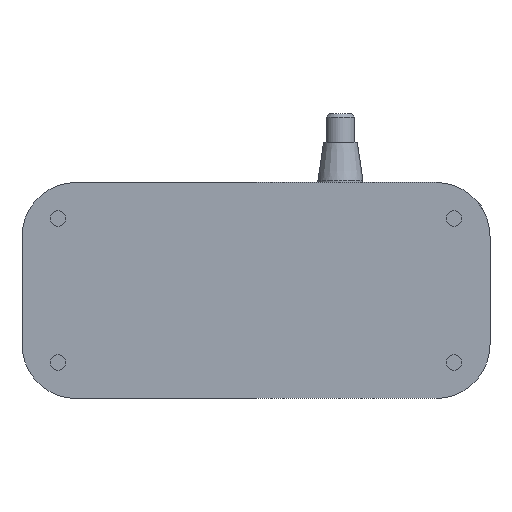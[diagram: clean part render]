
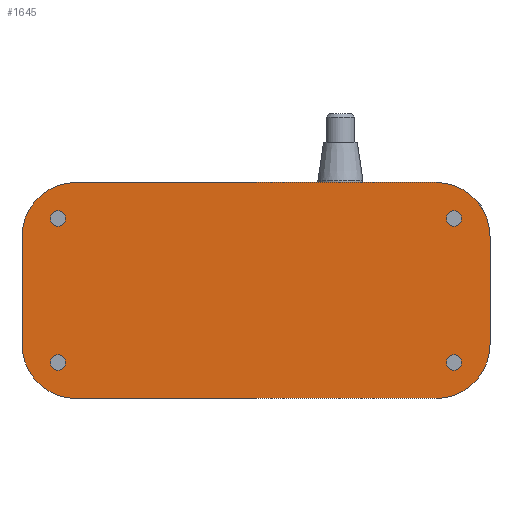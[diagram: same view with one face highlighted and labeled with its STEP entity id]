
A CAD part, front view. The second image highlights one B-rep face of the part: STEP entity #1645.
In plain terms, the highlighted planar face has unit normal (0, -1, 0).
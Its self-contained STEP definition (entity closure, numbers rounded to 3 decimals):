
#9 = DIRECTION ( 'NONE',  ( 0., -1., 0. ) ) ;
#20 = CARTESIAN_POINT ( 'NONE',  ( -108.8, 0., 40. ) ) ;
#76 = CIRCLE ( 'NONE', #299, 4.25 ) ;
#98 = CARTESIAN_POINT ( 'NONE',  ( 131.2, 0., -30. ) ) ;
#104 = CARTESIAN_POINT ( 'NONE',  ( -128.8, 0., 60. ) ) ;
#111 = AXIS2_PLACEMENT_3D ( 'NONE', #1895, #1520, #116 ) ;
#116 = DIRECTION ( 'NONE',  ( 1., 0., 0. ) ) ;
#119 = CARTESIAN_POINT ( 'NONE',  ( -98.8, 0., -30. ) ) ;
#120 = CIRCLE ( 'NONE', #111, 4.25 ) ;
#130 = CARTESIAN_POINT ( 'NONE',  ( -113.05, 0., 40. ) ) ;
#131 = CARTESIAN_POINT ( 'NONE',  ( -98.8, 0., 30. ) ) ;
#140 = VECTOR ( 'NONE', #480, 1000. ) ;
#159 = CARTESIAN_POINT ( 'NONE',  ( 131.2, 0., 60. ) ) ;
#194 = CARTESIAN_POINT ( 'NONE',  ( -128.8, 0., -30. ) ) ;
#199 = CIRCLE ( 'NONE', #269, 4.25 ) ;
#208 = DIRECTION ( 'NONE',  ( 0., 1., 0. ) ) ;
#210 = PLANE ( 'NONE',  #1917 ) ;
#228 = FACE_BOUND ( 'NONE', #456, .T. ) ;
#269 = AXIS2_PLACEMENT_3D ( 'NONE', #2207, #986, #1683 ) ;
#281 = ORIENTED_EDGE ( 'NONE', *, *, #1514, .T. ) ;
#299 = AXIS2_PLACEMENT_3D ( 'NONE', #1313, #1068, #1051 ) ;
#306 = ORIENTED_EDGE ( 'NONE', *, *, #2024, .T. ) ;
#338 = ORIENTED_EDGE ( 'NONE', *, *, #814, .F. ) ;
#342 = VERTEX_POINT ( 'NONE', #1209 ) ;
#348 = VECTOR ( 'NONE', #780, 1000. ) ;
#349 = VERTEX_POINT ( 'NONE', #1112 ) ;
#354 = DIRECTION ( 'NONE',  ( -1., 0., 0. ) ) ;
#356 = EDGE_CURVE ( 'NONE', #1843, #527, #2266, .T. ) ;
#366 = CARTESIAN_POINT ( 'NONE',  ( 101.2, 0., -60. ) ) ;
#394 = AXIS2_PLACEMENT_3D ( 'NONE', #1862, #793, #582 ) ;
#395 = VECTOR ( 'NONE', #1446, 1000. ) ;
#436 = EDGE_CURVE ( 'NONE', #745, #349, #1229, .T. ) ;
#456 = EDGE_LOOP ( 'NONE', ( #2152, #2035 ) ) ;
#464 = VERTEX_POINT ( 'NONE', #1970 ) ;
#480 = DIRECTION ( 'NONE',  ( 1., 0., 0. ) ) ;
#491 = AXIS2_PLACEMENT_3D ( 'NONE', #1135, #1476, #1154 ) ;
#495 = VERTEX_POINT ( 'NONE', #1908 ) ;
#524 = CIRCLE ( 'NONE', #491, 4.25 ) ;
#527 = VERTEX_POINT ( 'NONE', #2073 ) ;
#561 = LINE ( 'NONE', #846, #140 ) ;
#582 = DIRECTION ( 'NONE',  ( 1., 0., 0. ) ) ;
#595 = ORIENTED_EDGE ( 'NONE', *, *, #1863, .F. ) ;
#597 = DIRECTION ( 'NONE',  ( -1., 0., 0. ) ) ;
#610 = CARTESIAN_POINT ( 'NONE',  ( 101.2, 0., 30. ) ) ;
#643 = EDGE_CURVE ( 'NONE', #819, #745, #1381, .T. ) ;
#654 = FACE_OUTER_BOUND ( 'NONE', #1128, .T. ) ;
#714 = DIRECTION ( 'NONE',  ( 0., -1., 0. ) ) ;
#715 = AXIS2_PLACEMENT_3D ( 'NONE', #610, #714, #597 ) ;
#745 = VERTEX_POINT ( 'NONE', #194 ) ;
#767 = DIRECTION ( 'NONE',  ( 1., 0., 0. ) ) ;
#774 = CARTESIAN_POINT ( 'NONE',  ( -128.8, 0., 60. ) ) ;
#777 = EDGE_CURVE ( 'NONE', #349, #1065, #561, .T. ) ;
#780 = DIRECTION ( 'NONE',  ( 0., 0., -1. ) ) ;
#785 = EDGE_LOOP ( 'NONE', ( #338, #2070 ) ) ;
#793 = DIRECTION ( 'NONE',  ( 0., -1., 0. ) ) ;
#808 = ORIENTED_EDGE ( 'NONE', *, *, #2174, .F. ) ;
#811 = DIRECTION ( 'NONE',  ( 0., -1., 0. ) ) ;
#814 = EDGE_CURVE ( 'NONE', #495, #952, #910, .T. ) ;
#819 = VERTEX_POINT ( 'NONE', #903 ) ;
#846 = CARTESIAN_POINT ( 'NONE',  ( -128.8, 0., -60. ) ) ;
#903 = CARTESIAN_POINT ( 'NONE',  ( -128.8, 0., 30. ) ) ;
#910 = CIRCLE ( 'NONE', #959, 4.25 ) ;
#947 = DIRECTION ( 'NONE',  ( 1., 0., 0. ) ) ;
#952 = VERTEX_POINT ( 'NONE', #130 ) ;
#959 = AXIS2_PLACEMENT_3D ( 'NONE', #20, #9, #767 ) ;
#986 = DIRECTION ( 'NONE',  ( 0., -1., 0. ) ) ;
#988 = VERTEX_POINT ( 'NONE', #1410 ) ;
#1025 = CARTESIAN_POINT ( 'NONE',  ( -98.8, 0., 60. ) ) ;
#1047 = CARTESIAN_POINT ( 'NONE',  ( 111.2, 0., 40. ) ) ;
#1051 = DIRECTION ( 'NONE',  ( 1., 0., 0. ) ) ;
#1065 = VERTEX_POINT ( 'NONE', #366 ) ;
#1068 = DIRECTION ( 'NONE',  ( 0., -1., 0. ) ) ;
#1094 = ORIENTED_EDGE ( 'NONE', *, *, #1861, .F. ) ;
#1098 = VERTEX_POINT ( 'NONE', #1694 ) ;
#1112 = CARTESIAN_POINT ( 'NONE',  ( -98.8, 0., -60. ) ) ;
#1128 = EDGE_LOOP ( 'NONE', ( #1490, #1208, #2083, #281, #1693, #306, #1268, #2062 ) ) ;
#1129 = FACE_BOUND ( 'NONE', #785, .T. ) ;
#1135 = CARTESIAN_POINT ( 'NONE',  ( -108.8, 0., -40. ) ) ;
#1141 = CIRCLE ( 'NONE', #1442, 4.25 ) ;
#1154 = DIRECTION ( 'NONE',  ( 1., 0., 0. ) ) ;
#1192 = DIRECTION ( 'NONE',  ( -1., 0., 0. ) ) ;
#1193 = AXIS2_PLACEMENT_3D ( 'NONE', #2255, #2182, #947 ) ;
#1208 = ORIENTED_EDGE ( 'NONE', *, *, #1771, .T. ) ;
#1209 = CARTESIAN_POINT ( 'NONE',  ( 131.2, 0., 30. ) ) ;
#1222 = CARTESIAN_POINT ( 'NONE',  ( 106.95, 0., -40. ) ) ;
#1229 = CIRCLE ( 'NONE', #1547, 30. ) ;
#1246 = CARTESIAN_POINT ( 'NONE',  ( 101.2, 0., -30. ) ) ;
#1247 = LINE ( 'NONE', #159, #348 ) ;
#1268 = ORIENTED_EDGE ( 'NONE', *, *, #643, .T. ) ;
#1281 = AXIS2_PLACEMENT_3D ( 'NONE', #1246, #2288, #1192 ) ;
#1313 = CARTESIAN_POINT ( 'NONE',  ( -108.8, 0., -40. ) ) ;
#1321 = VECTOR ( 'NONE', #2265, 1000. ) ;
#1369 = AXIS2_PLACEMENT_3D ( 'NONE', #131, #811, #1896 ) ;
#1381 = LINE ( 'NONE', #2187, #1321 ) ;
#1410 = CARTESIAN_POINT ( 'NONE',  ( 115.45, 0., 40. ) ) ;
#1427 = CIRCLE ( 'NONE', #715, 30. ) ;
#1442 = AXIS2_PLACEMENT_3D ( 'NONE', #1047, #2226, #1767 ) ;
#1446 = DIRECTION ( 'NONE',  ( 1., 0., 0. ) ) ;
#1476 = DIRECTION ( 'NONE',  ( 0., -1., 0. ) ) ;
#1481 = EDGE_CURVE ( 'NONE', #464, #1968, #524, .T. ) ;
#1490 = ORIENTED_EDGE ( 'NONE', *, *, #777, .T. ) ;
#1514 = EDGE_CURVE ( 'NONE', #342, #527, #1427, .T. ) ;
#1519 = ORIENTED_EDGE ( 'NONE', *, *, #2169, .F. ) ;
#1520 = DIRECTION ( 'NONE',  ( 0., -1., 0. ) ) ;
#1547 = AXIS2_PLACEMENT_3D ( 'NONE', #119, #1604, #2252 ) ;
#1579 = EDGE_CURVE ( 'NONE', #342, #1643, #1247, .T. ) ;
#1585 = CIRCLE ( 'NONE', #394, 4.25 ) ;
#1604 = DIRECTION ( 'NONE',  ( 0., -1., 0. ) ) ;
#1607 = EDGE_LOOP ( 'NONE', ( #1519, #1094 ) ) ;
#1616 = FACE_BOUND ( 'NONE', #1941, .T. ) ;
#1643 = VERTEX_POINT ( 'NONE', #98 ) ;
#1645 = ADVANCED_FACE ( 'NONE', ( #228, #2068, #1616, #1129, #654 ), #210, .F. ) ;
#1683 = DIRECTION ( 'NONE',  ( 1., 0., 0. ) ) ;
#1688 = CARTESIAN_POINT ( 'NONE',  ( -104.55, 0., -40. ) ) ;
#1693 = ORIENTED_EDGE ( 'NONE', *, *, #356, .F. ) ;
#1694 = CARTESIAN_POINT ( 'NONE',  ( 115.45, 0., -40. ) ) ;
#1742 = VERTEX_POINT ( 'NONE', #1222 ) ;
#1764 = CIRCLE ( 'NONE', #1281, 30. ) ;
#1767 = DIRECTION ( 'NONE',  ( 1., 0., 0. ) ) ;
#1771 = EDGE_CURVE ( 'NONE', #1065, #1643, #1764, .T. ) ;
#1811 = CIRCLE ( 'NONE', #1193, 4.25 ) ;
#1843 = VERTEX_POINT ( 'NONE', #1025 ) ;
#1861 = EDGE_CURVE ( 'NONE', #1742, #1098, #199, .T. ) ;
#1862 = CARTESIAN_POINT ( 'NONE',  ( 111.2, 0., 40. ) ) ;
#1863 = EDGE_CURVE ( 'NONE', #2230, #988, #1585, .T. ) ;
#1895 = CARTESIAN_POINT ( 'NONE',  ( -108.8, 0., 40. ) ) ;
#1896 = DIRECTION ( 'NONE',  ( -1., 0., 0. ) ) ;
#1908 = CARTESIAN_POINT ( 'NONE',  ( -104.55, 0., 40. ) ) ;
#1917 = AXIS2_PLACEMENT_3D ( 'NONE', #104, #208, #354 ) ;
#1924 = CARTESIAN_POINT ( 'NONE',  ( 106.95, 0., 40. ) ) ;
#1941 = EDGE_LOOP ( 'NONE', ( #808, #595 ) ) ;
#1968 = VERTEX_POINT ( 'NONE', #1688 ) ;
#1970 = CARTESIAN_POINT ( 'NONE',  ( -113.05, 0., -40. ) ) ;
#2024 = EDGE_CURVE ( 'NONE', #1843, #819, #2111, .T. ) ;
#2035 = ORIENTED_EDGE ( 'NONE', *, *, #1481, .F. ) ;
#2062 = ORIENTED_EDGE ( 'NONE', *, *, #436, .T. ) ;
#2068 = FACE_BOUND ( 'NONE', #1607, .T. ) ;
#2070 = ORIENTED_EDGE ( 'NONE', *, *, #2077, .F. ) ;
#2073 = CARTESIAN_POINT ( 'NONE',  ( 101.2, 0., 60. ) ) ;
#2077 = EDGE_CURVE ( 'NONE', #952, #495, #120, .T. ) ;
#2083 = ORIENTED_EDGE ( 'NONE', *, *, #1579, .F. ) ;
#2111 = CIRCLE ( 'NONE', #1369, 30. ) ;
#2152 = ORIENTED_EDGE ( 'NONE', *, *, #2258, .F. ) ;
#2169 = EDGE_CURVE ( 'NONE', #1098, #1742, #1811, .T. ) ;
#2174 = EDGE_CURVE ( 'NONE', #988, #2230, #1141, .T. ) ;
#2182 = DIRECTION ( 'NONE',  ( 0., -1., 0. ) ) ;
#2187 = CARTESIAN_POINT ( 'NONE',  ( -128.8, 0., 60. ) ) ;
#2207 = CARTESIAN_POINT ( 'NONE',  ( 111.2, 0., -40. ) ) ;
#2226 = DIRECTION ( 'NONE',  ( 0., -1., 0. ) ) ;
#2230 = VERTEX_POINT ( 'NONE', #1924 ) ;
#2252 = DIRECTION ( 'NONE',  ( -1., 0., 0. ) ) ;
#2255 = CARTESIAN_POINT ( 'NONE',  ( 111.2, 0., -40. ) ) ;
#2258 = EDGE_CURVE ( 'NONE', #1968, #464, #76, .T. ) ;
#2265 = DIRECTION ( 'NONE',  ( 0., 0., -1. ) ) ;
#2266 = LINE ( 'NONE', #774, #395 ) ;
#2288 = DIRECTION ( 'NONE',  ( 0., -1., 0. ) ) ;
